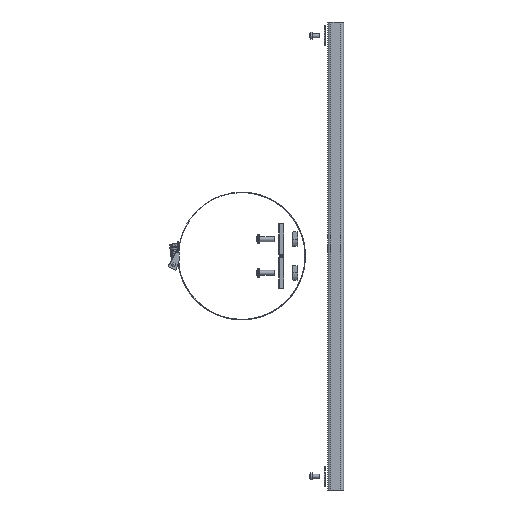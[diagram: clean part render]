
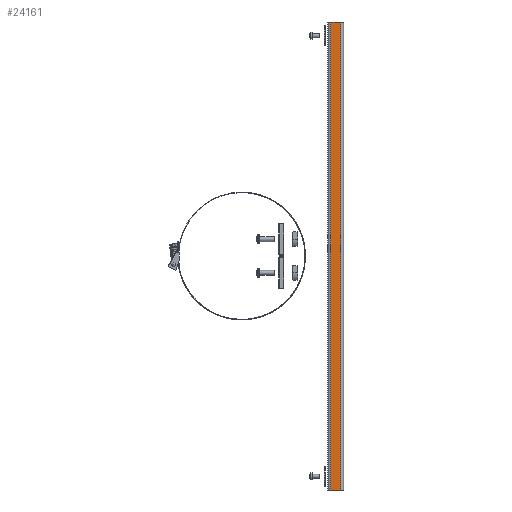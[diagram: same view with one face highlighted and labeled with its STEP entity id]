
A CAD part, front view. The second image highlights one B-rep face of the part: STEP entity #24161.
In plain terms, the highlighted planar face has unit normal (0, -1, 0).
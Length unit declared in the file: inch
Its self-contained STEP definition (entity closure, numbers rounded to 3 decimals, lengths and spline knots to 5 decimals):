
#1945 = EDGE_CURVE ( 'NONE', #31555, #41562, #35408, .T. ) ;
#2175 = ORIENTED_EDGE ( 'NONE', *, *, #50867, .F. ) ;
#3872 = CARTESIAN_POINT ( 'NONE',  ( -0.156, -0.8125, -24. ) ) ;
#5677 = ORIENTED_EDGE ( 'NONE', *, *, #28367, .T. ) ;
#6607 = LINE ( 'NONE', #34576, #58759 ) ;
#6837 = ORIENTED_EDGE ( 'NONE', *, *, #17592, .T. ) ;
#6971 = LINE ( 'NONE', #54244, #43503 ) ;
#9372 = VECTOR ( 'NONE', #36109, 39.37008 ) ;
#10114 = DIRECTION ( 'NONE',  ( 0., 0., 1. ) ) ;
#16328 = VERTEX_POINT ( 'NONE', #54576 ) ;
#16853 = EDGE_LOOP ( 'NONE', ( #59432, #2175, #5677, #6837 ) ) ;
#17592 = EDGE_CURVE ( 'NONE', #21520, #41562, #6607, .T. ) ;
#18763 = CARTESIAN_POINT ( 'NONE',  ( -0.6565, -0.8125, -24. ) ) ;
#21326 = CARTESIAN_POINT ( 'NONE',  ( -0.6565, -0.8125, 0. ) ) ;
#21520 = VERTEX_POINT ( 'NONE', #3872 ) ;
#24161 = ADVANCED_FACE ( 'NONE', ( #39946 ), #33137, .T. ) ;
#25295 = DIRECTION ( 'NONE',  ( 1., 0., 0. ) ) ;
#28127 = DIRECTION ( 'NONE',  ( 1., 0., 0. ) ) ;
#28367 = EDGE_CURVE ( 'NONE', #16328, #21520, #6971, .T. ) ;
#28635 = CARTESIAN_POINT ( 'NONE',  ( -0.6565, -0.8125, -24. ) ) ;
#31555 = VERTEX_POINT ( 'NONE', #50460 ) ;
#33137 = PLANE ( 'NONE',  #47237 ) ;
#34576 = CARTESIAN_POINT ( 'NONE',  ( -0.156, -0.8125, -24. ) ) ;
#34583 = CARTESIAN_POINT ( 'NONE',  ( -0.156, -0.8125, 0. ) ) ;
#35408 = LINE ( 'NONE', #21326, #9372 ) ;
#36109 = DIRECTION ( 'NONE',  ( 1., 0., 0. ) ) ;
#39229 = LINE ( 'NONE', #28635, #40734 ) ;
#39946 = FACE_OUTER_BOUND ( 'NONE', #16853, .T. ) ;
#40734 = VECTOR ( 'NONE', #10114, 39.37008 ) ;
#41562 = VERTEX_POINT ( 'NONE', #34583 ) ;
#43144 = DIRECTION ( 'NONE',  ( 0., -1., 0. ) ) ;
#43503 = VECTOR ( 'NONE', #25295, 39.37008 ) ;
#47237 = AXIS2_PLACEMENT_3D ( 'NONE', #18763, #43144, #28127 ) ;
#50460 = CARTESIAN_POINT ( 'NONE',  ( -0.6565, -0.8125, 0. ) ) ;
#50867 = EDGE_CURVE ( 'NONE', #16328, #31555, #39229, .T. ) ;
#53508 = DIRECTION ( 'NONE',  ( 0., 0., 1. ) ) ;
#54244 = CARTESIAN_POINT ( 'NONE',  ( -0.6565, -0.8125, -24. ) ) ;
#54576 = CARTESIAN_POINT ( 'NONE',  ( -0.6565, -0.8125, -24. ) ) ;
#58759 = VECTOR ( 'NONE', #53508, 39.37008 ) ;
#59432 = ORIENTED_EDGE ( 'NONE', *, *, #1945, .F. ) ;
